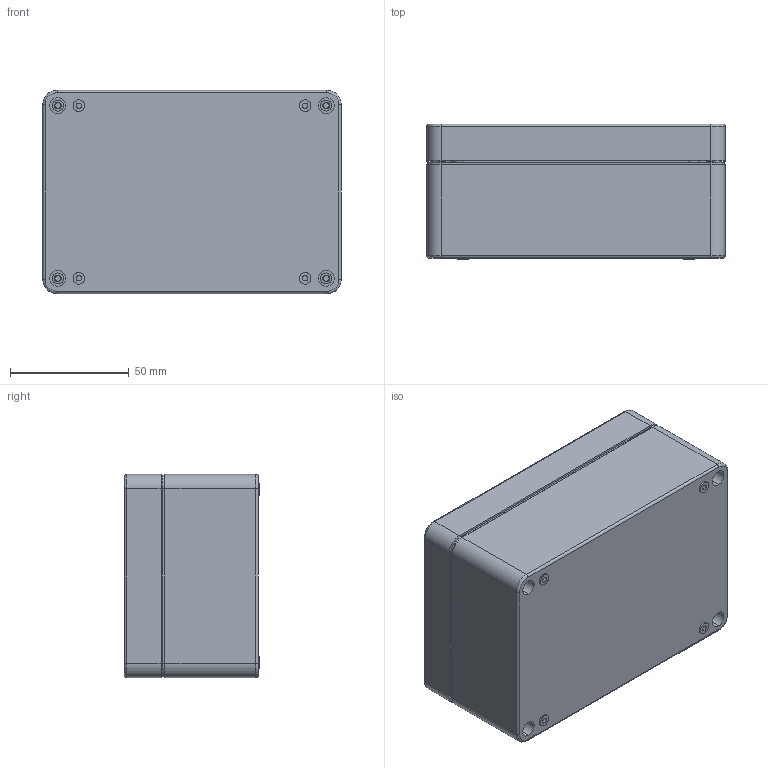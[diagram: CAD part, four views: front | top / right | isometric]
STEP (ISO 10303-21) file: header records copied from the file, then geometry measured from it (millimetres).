
FILE_DESCRIPTION (( 'STEP AP214' ), '1' );
FILE_NAME ('Conjunt PP120.STEP', '2019-11-08T19:15:48', ( 'aaa' ), ( '' ), 'SwSTEP 2.0', 'SolidWorks 2014', '' );
FILE_SCHEMA (( 'AUTOMOTIVE_DESIGN' ));
Length unit declared in the file: millimetre
Products named in the file (7): Cargol 2,1x6,5 PP120; Cuerpo PP120; Junta PP120; Conjunt PP120; Fijacion tornillo PP120; Tapa PP120; Cargol M 3x8 PP120
Assembly tree (15 placements, depth 2):
  Conjunt PP120
    Cuerpo PP120
    Tapa PP120
    Cargol M 3x8 PP120  x4
    Cargol 2,1x6,5 PP120  x4
    Fijacion tornillo PP120  x4
    Junta PP120
Bounding box: 125.5 x 57.05 x 85.5 mm (x, y, z)
Volume: 138699.7 mm3; surface area: 98375.1 mm2
Topology: 15 solids, 15 shells, 1263 faces, 2782 edges, 1600 vertices
Faces by surface type: cone 704, cylinder 270, plane 249, torus 40
Entity records: 17884 total; most frequent: DIRECTION 3390, CARTESIAN_POINT 2973, ORIENTED_EDGE 2848, EDGE_CURVE 1424, AXIS2_PLACEMENT_3D 1350, VERTEX_POINT 877, CIRCLE 720, VECTOR 690
